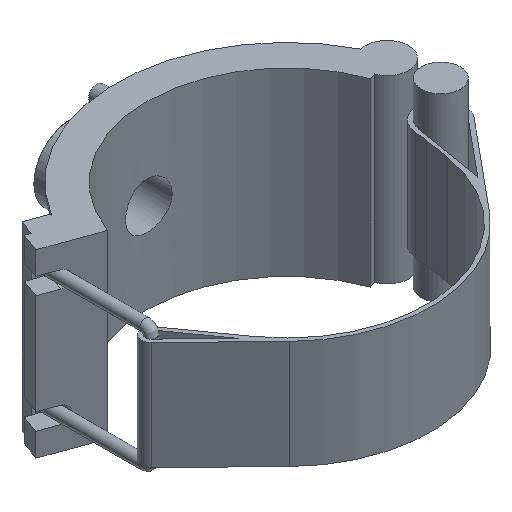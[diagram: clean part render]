
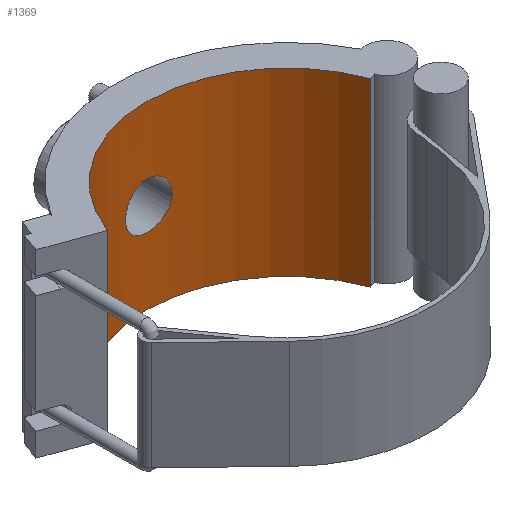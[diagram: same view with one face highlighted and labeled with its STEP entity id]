
A CAD part, isometric view. The second image highlights one B-rep face of the part: STEP entity #1369.
In plain terms, the highlighted cylindrical face has radius 136.35 mm (diameter 272.7 mm), a partial arc.
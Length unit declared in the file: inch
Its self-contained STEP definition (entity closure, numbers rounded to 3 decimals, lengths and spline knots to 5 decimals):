
#27=B_SPLINE_CURVE_WITH_KNOTS('',3,(#2424,#2425,#2426,#2427,#2428,#2429,
#2430,#2431,#2432,#2433,#2434,#2435,#2436,#2437,#2438,#2439,#2440,#2441,
#2442,#2443,#2444,#2445,#2446,#2447,#2448,#2449,#2450,#2451,#2452,#2453,
#2454,#2455,#2456,#2457,#2458,#2459,#2460,#2461,#2462,#2463,#2464,#2465,
#2466,#2467,#2468,#2469,#2470,#2471,#2472,#2473,#2474,#2475,#2476,#2477,
#2478,#2479,#2480,#2481,#2482,#2483,#2484,#2485,#2486,#2487,#2488,#2489),
 .UNSPECIFIED.,.T.,.F.,(4,2,2,2,2,2,2,2,2,2,2,2,2,2,2,2,2,2,2,2,2,2,2,2,
2,2,2,2,2,2,2,2,4),(0.,0.42769,0.85538,1.28307,
1.71076,2.13844,2.56612,2.9938,3.42148,
3.84916,4.27684,4.70452,5.1322,5.55989,
5.98758,6.41527,6.84296,7.27065,7.69835,
8.12604,8.55373,8.98141,9.40909,9.83677,
10.26445,10.69212,11.1198,11.54748,11.97516,
12.40285,12.83055,13.25824,13.68593),
 .UNSPECIFIED.);
#52=CYLINDRICAL_SURFACE('',#1517,5.36811);
#75=FACE_BOUND('',#295,.T.);
#119=CIRCLE('',#1483,5.36811);
#130=CIRCLE('',#1515,5.36811);
#205=FACE_OUTER_BOUND('',#294,.T.);
#294=EDGE_LOOP('',(#1181,#1182,#1183,#1184));
#295=EDGE_LOOP('',(#1185));
#374=LINE('',#2141,#488);
#426=LINE('',#2421,#540);
#488=VECTOR('',#1714,0.3937);
#540=VECTOR('',#1868,0.3937);
#619=VERTEX_POINT('',#2138);
#620=VERTEX_POINT('',#2140);
#641=VERTEX_POINT('',#2210);
#657=VERTEX_POINT('',#2417);
#658=VERTEX_POINT('',#2423);
#764=EDGE_CURVE('',#620,#619,#374,.T.);
#800=EDGE_CURVE('',#620,#641,#119,.T.);
#837=EDGE_CURVE('',#657,#619,#130,.T.);
#838=EDGE_CURVE('',#657,#641,#426,.T.);
#839=EDGE_CURVE('',#658,#658,#27,.T.);
#1181=ORIENTED_EDGE('',*,*,#838,.T.);
#1182=ORIENTED_EDGE('',*,*,#800,.F.);
#1183=ORIENTED_EDGE('',*,*,#764,.T.);
#1184=ORIENTED_EDGE('',*,*,#837,.F.);
#1185=ORIENTED_EDGE('',*,*,#839,.T.);
#1369=ADVANCED_FACE('',(#205,#75),#52,.F.);
#1483=AXIS2_PLACEMENT_3D('',#2211,#1780,#1781);
#1515=AXIS2_PLACEMENT_3D('',#2419,#1864,#1865);
#1517=AXIS2_PLACEMENT_3D('',#2422,#1869,#1870);
#1714=DIRECTION('',(0.,0.,-1.));
#1780=DIRECTION('center_axis',(0.,0.,-1.));
#1781=DIRECTION('ref_axis',(-1.,0.,0.));
#1864=DIRECTION('center_axis',(0.,0.,1.));
#1865=DIRECTION('ref_axis',(-1.,0.,0.));
#1868=DIRECTION('',(0.,0.,1.));
#1869=DIRECTION('center_axis',(0.,0.,1.));
#1870=DIRECTION('ref_axis',(-1.,0.,0.));
#2138=CARTESIAN_POINT('',(-5.04437,1.836,-3.465));
#2140=CARTESIAN_POINT('',(-5.04437,1.836,3.465));
#2141=CARTESIAN_POINT('',(-5.04437,1.836,0.));
#2210=CARTESIAN_POINT('',(5.04437,1.836,3.465));
#2211=CARTESIAN_POINT('Origin',(0.,0.,3.465));
#2417=CARTESIAN_POINT('',(5.04437,1.836,-3.465));
#2419=CARTESIAN_POINT('Origin',(0.,0.,-3.465));
#2421=CARTESIAN_POINT('',(5.04437,1.836,0.));
#2422=CARTESIAN_POINT('Origin',(0.,0.,0.));
#2423=CARTESIAN_POINT('',(0.89222,5.29344,0.));
#2424=CARTESIAN_POINT('Ctrl Pts',(0.89222,5.29344,0.));
#2425=CARTESIAN_POINT('Ctrl Pts',(0.89222,5.29344,-0.05613));
#2426=CARTESIAN_POINT('Ctrl Pts',(0.88684,5.29436,-0.11414));
#2427=CARTESIAN_POINT('Ctrl Pts',(0.86421,5.2981,-0.22947));
#2428=CARTESIAN_POINT('Ctrl Pts',(0.84696,5.30092,-0.28679));
#2429=CARTESIAN_POINT('Ctrl Pts',(0.8014,5.308,-0.39667));
#2430=CARTESIAN_POINT('Ctrl Pts',(0.77305,5.31226,-0.44932));
#2431=CARTESIAN_POINT('Ctrl Pts',(0.70758,5.32138,-0.54666));
#2432=CARTESIAN_POINT('Ctrl Pts',(0.67044,5.32623,-0.59135));
#2433=CARTESIAN_POINT('Ctrl Pts',(0.59135,5.33559,-0.67044));
#2434=CARTESIAN_POINT('Ctrl Pts',(0.54666,5.34043,-0.70757));
#2435=CARTESIAN_POINT('Ctrl Pts',(0.44932,5.3495,-0.77305));
#2436=CARTESIAN_POINT('Ctrl Pts',(0.39667,5.35372,-0.8014));
#2437=CARTESIAN_POINT('Ctrl Pts',(0.28679,5.36073,-0.84696));
#2438=CARTESIAN_POINT('Ctrl Pts',(0.22947,5.36351,-0.86421));
#2439=CARTESIAN_POINT('Ctrl Pts',(0.11414,5.36721,-0.88684));
#2440=CARTESIAN_POINT('Ctrl Pts',(0.05613,5.36811,-0.89222));
#2441=CARTESIAN_POINT('Ctrl Pts',(-0.05613,5.36811,
-0.89222));
#2442=CARTESIAN_POINT('Ctrl Pts',(-0.11414,5.36721,-0.88684));
#2443=CARTESIAN_POINT('Ctrl Pts',(-0.22947,5.36351,-0.86421));
#2444=CARTESIAN_POINT('Ctrl Pts',(-0.28679,5.36073,-0.84696));
#2445=CARTESIAN_POINT('Ctrl Pts',(-0.39667,5.35372,-0.8014));
#2446=CARTESIAN_POINT('Ctrl Pts',(-0.44932,5.3495,-0.77305));
#2447=CARTESIAN_POINT('Ctrl Pts',(-0.54666,5.34043,-0.70757));
#2448=CARTESIAN_POINT('Ctrl Pts',(-0.59135,5.33559,-0.67044));
#2449=CARTESIAN_POINT('Ctrl Pts',(-0.67044,5.32623,-0.59135));
#2450=CARTESIAN_POINT('Ctrl Pts',(-0.70758,5.32138,-0.54666));
#2451=CARTESIAN_POINT('Ctrl Pts',(-0.77305,5.31226,-0.44932));
#2452=CARTESIAN_POINT('Ctrl Pts',(-0.8014,5.308,-0.39667));
#2453=CARTESIAN_POINT('Ctrl Pts',(-0.84696,5.30092,-0.28679));
#2454=CARTESIAN_POINT('Ctrl Pts',(-0.86421,5.2981,-0.22947));
#2455=CARTESIAN_POINT('Ctrl Pts',(-0.88684,5.29436,-0.11414));
#2456=CARTESIAN_POINT('Ctrl Pts',(-0.89222,5.29344,-0.05613));
#2457=CARTESIAN_POINT('Ctrl Pts',(-0.89222,5.29344,0.05613));
#2458=CARTESIAN_POINT('Ctrl Pts',(-0.88684,5.29436,0.11414));
#2459=CARTESIAN_POINT('Ctrl Pts',(-0.86421,5.2981,0.22947));
#2460=CARTESIAN_POINT('Ctrl Pts',(-0.84696,5.30092,0.28679));
#2461=CARTESIAN_POINT('Ctrl Pts',(-0.8014,5.308,0.39667));
#2462=CARTESIAN_POINT('Ctrl Pts',(-0.77305,5.31226,0.44932));
#2463=CARTESIAN_POINT('Ctrl Pts',(-0.70758,5.32138,0.54666));
#2464=CARTESIAN_POINT('Ctrl Pts',(-0.67044,5.32623,0.59135));
#2465=CARTESIAN_POINT('Ctrl Pts',(-0.59135,5.33559,0.67044));
#2466=CARTESIAN_POINT('Ctrl Pts',(-0.54666,5.34043,0.70757));
#2467=CARTESIAN_POINT('Ctrl Pts',(-0.44932,5.3495,0.77305));
#2468=CARTESIAN_POINT('Ctrl Pts',(-0.39667,5.35372,0.8014));
#2469=CARTESIAN_POINT('Ctrl Pts',(-0.28679,5.36073,0.84696));
#2470=CARTESIAN_POINT('Ctrl Pts',(-0.22947,5.36351,0.86421));
#2471=CARTESIAN_POINT('Ctrl Pts',(-0.11414,5.36721,0.88684));
#2472=CARTESIAN_POINT('Ctrl Pts',(-0.05613,5.36811,
0.89222));
#2473=CARTESIAN_POINT('Ctrl Pts',(0.05613,5.36811,0.89222));
#2474=CARTESIAN_POINT('Ctrl Pts',(0.11414,5.36721,0.88684));
#2475=CARTESIAN_POINT('Ctrl Pts',(0.22947,5.36351,0.86421));
#2476=CARTESIAN_POINT('Ctrl Pts',(0.28679,5.36073,0.84696));
#2477=CARTESIAN_POINT('Ctrl Pts',(0.39667,5.35372,0.8014));
#2478=CARTESIAN_POINT('Ctrl Pts',(0.44932,5.3495,0.77305));
#2479=CARTESIAN_POINT('Ctrl Pts',(0.54666,5.34043,0.70757));
#2480=CARTESIAN_POINT('Ctrl Pts',(0.59135,5.33559,0.67044));
#2481=CARTESIAN_POINT('Ctrl Pts',(0.67044,5.32623,0.59135));
#2482=CARTESIAN_POINT('Ctrl Pts',(0.70758,5.32138,0.54666));
#2483=CARTESIAN_POINT('Ctrl Pts',(0.77305,5.31226,0.44932));
#2484=CARTESIAN_POINT('Ctrl Pts',(0.8014,5.308,0.39667));
#2485=CARTESIAN_POINT('Ctrl Pts',(0.84696,5.30092,0.28679));
#2486=CARTESIAN_POINT('Ctrl Pts',(0.86421,5.2981,0.22947));
#2487=CARTESIAN_POINT('Ctrl Pts',(0.88684,5.29436,0.11414));
#2488=CARTESIAN_POINT('Ctrl Pts',(0.89222,5.29344,0.05613));
#2489=CARTESIAN_POINT('Ctrl Pts',(0.89222,5.29344,0.));
